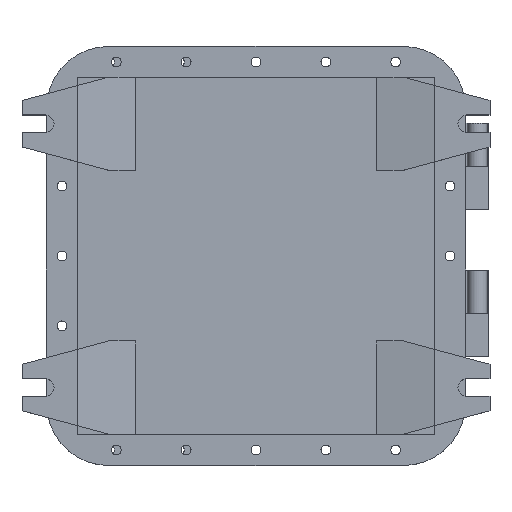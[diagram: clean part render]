
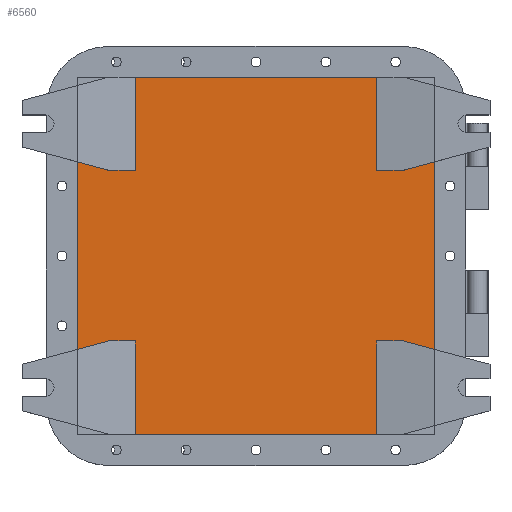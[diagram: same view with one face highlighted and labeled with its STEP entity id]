
A CAD part, top view. The second image highlights one B-rep face of the part: STEP entity #6560.
In plain terms, the highlighted planar face has unit normal (0, 0, 1).
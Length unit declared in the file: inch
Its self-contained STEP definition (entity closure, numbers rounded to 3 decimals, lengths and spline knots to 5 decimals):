
#161 = EDGE_CURVE ( 'NONE', #6581, #6820, #1778, .T. ) ;
#228 = VERTEX_POINT ( 'NONE', #5546 ) ;
#238 = ORIENTED_EDGE ( 'NONE', *, *, #161, .F. ) ;
#333 = DIRECTION ( 'NONE',  ( 1., 0., 0. ) ) ;
#443 = CARTESIAN_POINT ( 'NONE',  ( 2.8585, 4., 6.786 ) ) ;
#514 = EDGE_CURVE ( 'NONE', #7586, #4220, #6927, .T. ) ;
#520 = VERTEX_POINT ( 'NONE', #4187 ) ;
#600 = FACE_OUTER_BOUND ( 'NONE', #4119, .T. ) ;
#681 = ORIENTED_EDGE ( 'NONE', *, *, #3874, .T. ) ;
#688 = VECTOR ( 'NONE', #1926, 39.37008 ) ;
#745 = ORIENTED_EDGE ( 'NONE', *, *, #6987, .T. ) ;
#775 = DIRECTION ( 'NONE',  ( -1., 0., 0. ) ) ;
#1000 = ORIENTED_EDGE ( 'NONE', *, *, #7492, .T. ) ;
#1128 = CARTESIAN_POINT ( 'NONE',  ( 12.5, 3.72923, 6.786 ) ) ;
#1141 = VERTEX_POINT ( 'NONE', #3719 ) ;
#1178 = LINE ( 'NONE', #5730, #6443 ) ;
#1325 = CARTESIAN_POINT ( 'NONE',  ( 1., 12.5, 6.786 ) ) ;
#1346 = EDGE_CURVE ( 'NONE', #7402, #1743, #8666, .T. ) ;
#1642 = VECTOR ( 'NONE', #2076, 39.37008 ) ;
#1734 = VERTEX_POINT ( 'NONE', #8071 ) ;
#1743 = VERTEX_POINT ( 'NONE', #9595 ) ;
#1778 = LINE ( 'NONE', #6614, #9529 ) ;
#1839 = CARTESIAN_POINT ( 'NONE',  ( -0.7885, 10.25, 6.786 ) ) ;
#1869 = CARTESIAN_POINT ( 'NONE',  ( 0., 4., 6.786 ) ) ;
#1885 = LINE ( 'NONE', #4442, #1642 ) ;
#1926 = DIRECTION ( 'NONE',  ( -1., 0., 0. ) ) ;
#2075 = DIRECTION ( 'NONE',  ( 0., -1., 0. ) ) ;
#2076 = DIRECTION ( 'NONE',  ( 1., 0., 0. ) ) ;
#2119 = VECTOR ( 'NONE', #333, 39.37008 ) ;
#2127 = VECTOR ( 'NONE', #9267, 39.37008 ) ;
#2166 = CARTESIAN_POINT ( 'NONE',  ( 10.6415, 9.5, 6.786 ) ) ;
#2402 = VERTEX_POINT ( 'NONE', #5126 ) ;
#2479 = VECTOR ( 'NONE', #4972, 39.37008 ) ;
#2650 = DIRECTION ( 'NONE',  ( 0.966, -0.259, 0. ) ) ;
#2745 = ORIENTED_EDGE ( 'NONE', *, *, #1346, .F. ) ;
#2772 = EDGE_CURVE ( 'NONE', #5428, #228, #3895, .T. ) ;
#2789 = DIRECTION ( 'NONE',  ( -0.966, -0.259, 0. ) ) ;
#2920 = LINE ( 'NONE', #9211, #8526 ) ;
#3059 = CARTESIAN_POINT ( 'NONE',  ( 10.6415, 12.5, 6.786 ) ) ;
#3166 = VECTOR ( 'NONE', #7154, 39.37008 ) ;
#3177 = VECTOR ( 'NONE', #2789, 39.37008 ) ;
#3194 = VECTOR ( 'NONE', #5112, 39.37008 ) ;
#3207 = CARTESIAN_POINT ( 'NONE',  ( 10.6415, 4., 6.786 ) ) ;
#3212 = ORIENTED_EDGE ( 'NONE', *, *, #7971, .F. ) ;
#3242 = CARTESIAN_POINT ( 'NONE',  ( 10.6415, 1., 6.786 ) ) ;
#3297 = LINE ( 'NONE', #1839, #6564 ) ;
#3566 = CARTESIAN_POINT ( 'NONE',  ( 1., 3.72923, 6.786 ) ) ;
#3719 = CARTESIAN_POINT ( 'NONE',  ( 11.48946, 4., 6.786 ) ) ;
#3874 = EDGE_CURVE ( 'NONE', #5428, #1734, #9125, .T. ) ;
#3895 = LINE ( 'NONE', #4438, #2119 ) ;
#3928 = VECTOR ( 'NONE', #2650, 39.37008 ) ;
#4041 = CARTESIAN_POINT ( 'NONE',  ( 11.48946, 9.5, 6.786 ) ) ;
#4084 = CARTESIAN_POINT ( 'NONE',  ( 12.5, 9.77077, 6.786 ) ) ;
#4086 = ORIENTED_EDGE ( 'NONE', *, *, #9696, .F. ) ;
#4119 = EDGE_LOOP ( 'NONE', ( #5908, #3212, #745, #7267, #5741, #5085, #681, #9695, #9424, #5077, #5048, #2745, #7410, #1000, #238, #4086 ) ) ;
#4164 = DIRECTION ( 'NONE',  ( 0., 0., 1. ) ) ;
#4187 = CARTESIAN_POINT ( 'NONE',  ( 1., 3.72923, 6.786 ) ) ;
#4220 = VERTEX_POINT ( 'NONE', #2166 ) ;
#4236 = DIRECTION ( 'NONE',  ( 0., -1., 0. ) ) ;
#4418 = CARTESIAN_POINT ( 'NONE',  ( 2.8585, 12.5, 6.786 ) ) ;
#4438 = CARTESIAN_POINT ( 'NONE',  ( 1., 12.5, 6.786 ) ) ;
#4442 = CARTESIAN_POINT ( 'NONE',  ( 1., 1., 6.786 ) ) ;
#4484 = LINE ( 'NONE', #3059, #7999 ) ;
#4578 = DIRECTION ( 'NONE',  ( -1., 0., 0. ) ) ;
#4656 = CARTESIAN_POINT ( 'NONE',  ( 0., 0., 6.786 ) ) ;
#4703 = VERTEX_POINT ( 'NONE', #7757 ) ;
#4867 = VECTOR ( 'NONE', #4578, 39.37008 ) ;
#4972 = DIRECTION ( 'NONE',  ( 0., -1., 0. ) ) ;
#5039 = DIRECTION ( 'NONE',  ( 1., 0., 0. ) ) ;
#5048 = ORIENTED_EDGE ( 'NONE', *, *, #7934, .F. ) ;
#5077 = ORIENTED_EDGE ( 'NONE', *, *, #7929, .T. ) ;
#5085 = ORIENTED_EDGE ( 'NONE', *, *, #2772, .F. ) ;
#5112 = DIRECTION ( 'NONE',  ( -1., 0., 0. ) ) ;
#5126 = CARTESIAN_POINT ( 'NONE',  ( 1., 9.77077, 6.786 ) ) ;
#5356 = EDGE_CURVE ( 'NONE', #1141, #7020, #7906, .T. ) ;
#5399 = LINE ( 'NONE', #1325, #7139 ) ;
#5428 = VERTEX_POINT ( 'NONE', #4418 ) ;
#5546 = CARTESIAN_POINT ( 'NONE',  ( 10.6415, 12.5, 6.786 ) ) ;
#5673 = CARTESIAN_POINT ( 'NONE',  ( 0., 9.5, 6.786 ) ) ;
#5675 = CARTESIAN_POINT ( 'NONE',  ( 14.2885, 3.25, 6.786 ) ) ;
#5730 = CARTESIAN_POINT ( 'NONE',  ( 12.5, 12.5, 6.786 ) ) ;
#5741 = ORIENTED_EDGE ( 'NONE', *, *, #5927, .F. ) ;
#5868 = EDGE_CURVE ( 'NONE', #7402, #4703, #8469, .T. ) ;
#5908 = ORIENTED_EDGE ( 'NONE', *, *, #5356, .T. ) ;
#5927 = EDGE_CURVE ( 'NONE', #228, #4220, #4484, .T. ) ;
#6095 = DIRECTION ( 'NONE',  ( 0., -1., 0. ) ) ;
#6294 = AXIS2_PLACEMENT_3D ( 'NONE', #4656, #4164, #5039 ) ;
#6330 = PLANE ( 'NONE',  #6294 ) ;
#6443 = VECTOR ( 'NONE', #4236, 39.37008 ) ;
#6444 = CARTESIAN_POINT ( 'NONE',  ( 2.8585, 12.5, 6.786 ) ) ;
#6560 = ADVANCED_FACE ( 'NONE', ( #600 ), #6330, .T. ) ;
#6564 = VECTOR ( 'NONE', #7092, 39.37008 ) ;
#6581 = VERTEX_POINT ( 'NONE', #3207 ) ;
#6614 = CARTESIAN_POINT ( 'NONE',  ( 10.6415, 4., 6.786 ) ) ;
#6820 = VERTEX_POINT ( 'NONE', #3242 ) ;
#6856 = VERTEX_POINT ( 'NONE', #7038 ) ;
#6869 = LINE ( 'NONE', #7536, #4867 ) ;
#6927 = LINE ( 'NONE', #5673, #3194 ) ;
#6987 = EDGE_CURVE ( 'NONE', #9066, #7586, #9643, .T. ) ;
#7020 = VERTEX_POINT ( 'NONE', #1128 ) ;
#7038 = CARTESIAN_POINT ( 'NONE',  ( 2.01054, 9.5, 6.786 ) ) ;
#7092 = DIRECTION ( 'NONE',  ( 0.966, -0.259, 0. ) ) ;
#7139 = VECTOR ( 'NONE', #2075, 39.37008 ) ;
#7154 = DIRECTION ( 'NONE',  ( 0., -1., 0. ) ) ;
#7267 = ORIENTED_EDGE ( 'NONE', *, *, #514, .T. ) ;
#7402 = VERTEX_POINT ( 'NONE', #9145 ) ;
#7410 = ORIENTED_EDGE ( 'NONE', *, *, #5868, .T. ) ;
#7492 = EDGE_CURVE ( 'NONE', #4703, #6820, #1885, .T. ) ;
#7536 = CARTESIAN_POINT ( 'NONE',  ( 0., 4., 6.786 ) ) ;
#7586 = VERTEX_POINT ( 'NONE', #4041 ) ;
#7757 = CARTESIAN_POINT ( 'NONE',  ( 2.8585, 1., 6.786 ) ) ;
#7803 = EDGE_CURVE ( 'NONE', #2402, #6856, #3297, .T. ) ;
#7906 = LINE ( 'NONE', #5675, #3928 ) ;
#7929 = EDGE_CURVE ( 'NONE', #2402, #520, #5399, .T. ) ;
#7934 = EDGE_CURVE ( 'NONE', #1743, #520, #9135, .T. ) ;
#7971 = EDGE_CURVE ( 'NONE', #9066, #7020, #1178, .T. ) ;
#7999 = VECTOR ( 'NONE', #6095, 39.37008 ) ;
#8071 = CARTESIAN_POINT ( 'NONE',  ( 2.8585, 9.5, 6.786 ) ) ;
#8449 = EDGE_CURVE ( 'NONE', #1734, #6856, #2920, .T. ) ;
#8469 = LINE ( 'NONE', #443, #2479 ) ;
#8526 = VECTOR ( 'NONE', #775, 39.37008 ) ;
#8666 = LINE ( 'NONE', #1869, #688 ) ;
#8903 = DIRECTION ( 'NONE',  ( 0., -1., 0. ) ) ;
#8980 = CARTESIAN_POINT ( 'NONE',  ( 12.5, 9.77077, 6.786 ) ) ;
#9066 = VERTEX_POINT ( 'NONE', #8980 ) ;
#9125 = LINE ( 'NONE', #6444, #3166 ) ;
#9135 = LINE ( 'NONE', #3566, #3177 ) ;
#9145 = CARTESIAN_POINT ( 'NONE',  ( 2.8585, 4., 6.786 ) ) ;
#9211 = CARTESIAN_POINT ( 'NONE',  ( 0., 9.5, 6.786 ) ) ;
#9267 = DIRECTION ( 'NONE',  ( -0.966, -0.259, 0. ) ) ;
#9424 = ORIENTED_EDGE ( 'NONE', *, *, #7803, .F. ) ;
#9529 = VECTOR ( 'NONE', #8903, 39.37008 ) ;
#9595 = CARTESIAN_POINT ( 'NONE',  ( 2.01054, 4., 6.786 ) ) ;
#9643 = LINE ( 'NONE', #4084, #2127 ) ;
#9695 = ORIENTED_EDGE ( 'NONE', *, *, #8449, .T. ) ;
#9696 = EDGE_CURVE ( 'NONE', #1141, #6581, #6869, .T. ) ;
